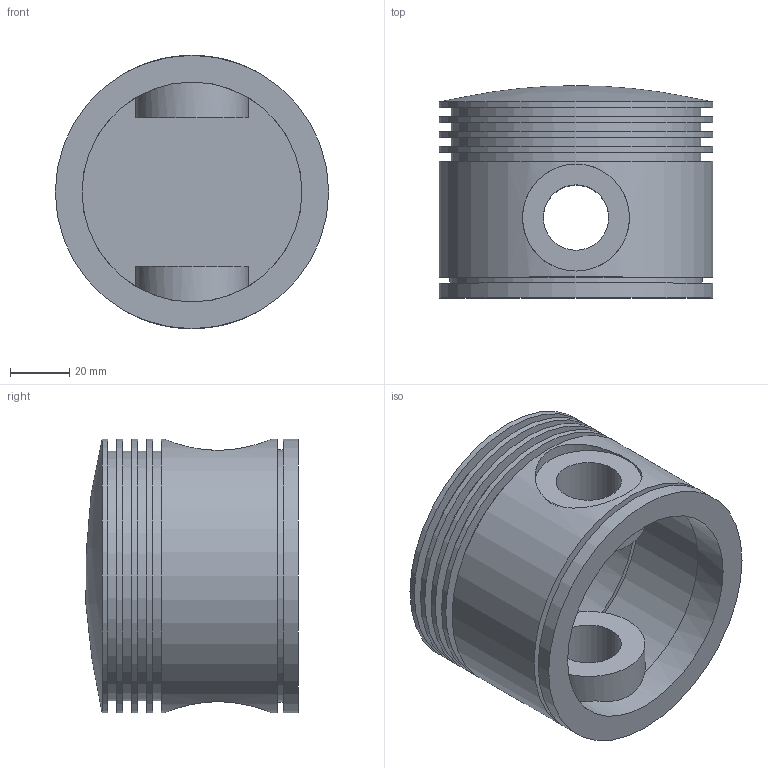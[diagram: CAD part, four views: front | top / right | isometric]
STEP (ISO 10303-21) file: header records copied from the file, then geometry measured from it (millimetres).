
FILE_DESCRIPTION (( 'STEP AP214' ), '1' );
FILE_NAME ('c06_tut03.STEP', '2013-03-16T08:22:59', ( '' ), ( '' ), 'SwSTEP 2.0', 'SolidWorks 2013', '' );
FILE_SCHEMA (( 'AUTOMOTIVE_DESIGN' ));
Length unit declared in the file: millimetre
Products named in the file (1): c06_tut03
Bounding box: 92 x 71.45 x 92 mm (x, y, z)
Volume: 173395.3 mm3; surface area: 61869.9 mm2
Topology: 1 solids, 1 shells, 42 faces, 84 edges, 56 vertices
Faces by surface type: cylinder 21, plane 20, sphere 1
Full cylindrical faces by diameter (mm): 22 x2, 36 x2, 38 x2, 74 x2, 84 x4, 85 x1, 92 x6
Entity records: 1410 total; most frequent: CARTESIAN_POINT 585, DIRECTION 174, ORIENTED_EDGE 116, AXIS2_PLACEMENT_3D 83, EDGE_LOOP 78, FACE_OUTER_BOUND 61, EDGE_CURVE 58, VERTEX_POINT 50
